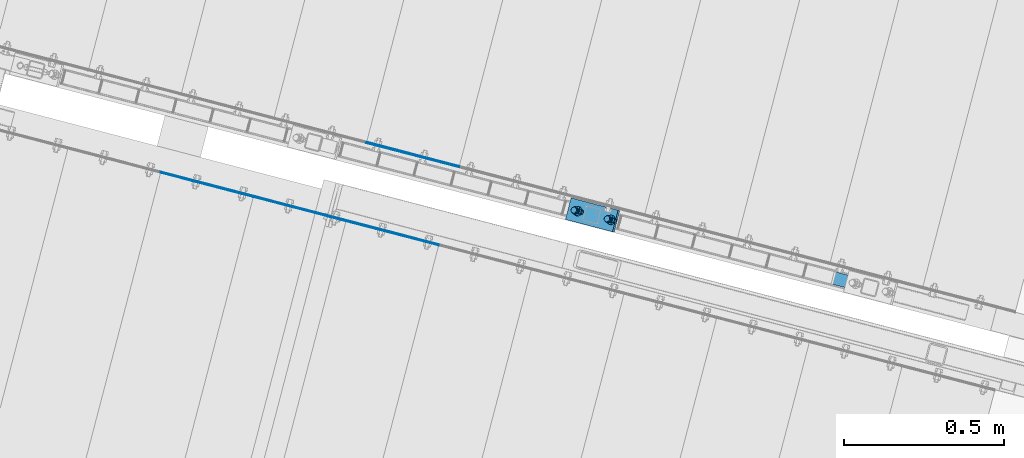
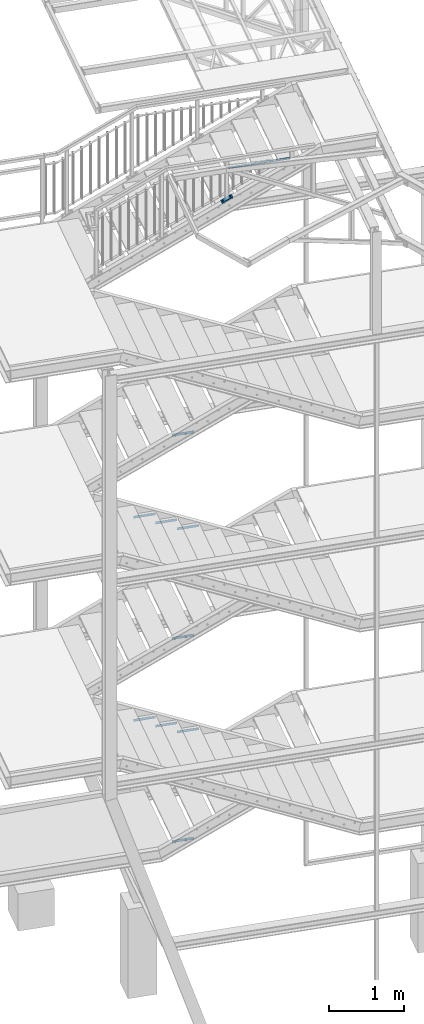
# One storey, part 66 of 169: 11 discrete accessories, 1 mechanical fastener, 10 elements without a shape of their own.
"""IFC2X3 building model written with IfcOpenShell, lengths in millimetres."""

from ifc_helpers import new_model, si_unit, frame, frame_2d, origin_with_axes, origin_2d_with_axis, place, context, subcontext, project, spatial, polyline, circle_curve, parameter, trimmed, segment, composite_curve, rectangle, circle, outline, extrude, clip, halfspace, source, transform, mapped, material, type_object, element, aggregate, save


model = new_model("IFC2X3")

# Units and contexts
model_context = context("Model", 3, precision=1e-05, world=origin_with_axes())
body_context = subcontext(model_context, "Body", "Model", "MODEL_VIEW")
ifc_project = project(units=[si_unit("LENGTHUNIT", "METRE", prefix="MILLI"), si_unit("AREAUNIT", "SQUARE_METRE"), si_unit("VOLUMEUNIT", "CUBIC_METRE"), si_unit("MASSUNIT", "GRAM", prefix="KILO"), si_unit("TIMEUNIT", "SECOND"), si_unit("PLANEANGLEUNIT", "RADIAN"), si_unit("SOLIDANGLEUNIT", "STERADIAN"), si_unit("THERMODYNAMICTEMPERATUREUNIT", "DEGREE_CELSIUS"), si_unit("LUMINOUSINTENSITYUNIT", "LUMEN")], contexts=[model_context])

# Site, building, storey
site_placement = place(None, origin_with_axes())
site = spatial("IfcSite", under=ifc_project, at=site_placement, Name="Undefined", CompositionType="ELEMENT")
building_placement = place(site_placement, origin_with_axes())
building = spatial("IfcBuilding", under=site, at=building_placement, Name="Undefined", CompositionType="ELEMENT")
storey_placement = place(building_placement, origin_with_axes())
storey = spatial("IfcBuildingStorey", under=building, at=storey_placement, Name="Undefined", CompositionType="ELEMENT", Elevation=0.0)

# Assembly, discrete accessories
assembly_1_placement = place(storey_placement, origin_with_axes())
assembly_1 = element("IfcElementAssembly", 1, at=assembly_1_placement, inside=storey, Name="Steel Assembly", AssemblyPlace="NOTDEFINED", PredefinedType="RIGID_FRAME")
ifc_material_1 = material(Name="STEEL/S235")
discrete_accessory_type_1 = type_object("IfcDiscreteAccessoryType", Name="BLACHA")
discrete_accessory_1_placement = place(assembly_1_placement, frame((-26058.7252326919, 6846.69603607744, 13359.2371418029), z_axis=(-0.432715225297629, 0.11294923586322, 0.894427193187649), x_axis=(0.252628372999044, 0.967563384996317, 3.42100000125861e-05)))
discrete_accessory_1 = element("IfcDiscreteAccessory", 2, at=discrete_accessory_1_placement, type_object=discrete_accessory_type_1, material=ifc_material_1, Name="BLACHA", ObjectType="BL12*170", context=body_context, shape_type="SweptSolid", body=[
    extrude(outline(polyline([(5.82076609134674e-11, 84.99999999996), (70.0000000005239, 84.9999999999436), (70.0000000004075, -84.9999999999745), (-5.82076609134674e-11, -84.99999999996), (5.82076609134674e-11, 84.99999999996)])), frame((-1.81898942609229e-12, -1.81898940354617e-12, -5.99999999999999), z_axis=(0.0, 0.0, 1.0), x_axis=(1.0, 0.0, 0.0)), (0.0, 0.0, 1.0), 12.0),
])
discrete_accessory_type_2 = type_object("IfcDiscreteAccessoryType", Name="PORĘCZ")
discrete_accessory_2_placement = place(assembly_1_placement, frame((-25206.811998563, 6660.50686749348, 13860.1970313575), z_axis=(3.4552000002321e-05, 0.000132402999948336, 0.999999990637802), x_axis=(-0.967563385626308, 0.252628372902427, -1.72000000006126e-07)))
discrete_accessory_2 = element("IfcDiscreteAccessory", 3, at=discrete_accessory_2_placement, type_object=discrete_accessory_type_2, material=ifc_material_1, Name="PORĘCZ", ObjectType="BL40*3", context=body_context, shape_type="Clipping", body=[
    clip(extrude(outline(polyline([(849.000001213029, 20.0000000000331), (849.000001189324, -19.9999999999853), (-3.27418092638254e-11, -20.0000000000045), (3.27418092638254e-11, 20.0000000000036), (849.000001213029, 20.0000000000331)])), frame((1.81898940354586e-12, -1.77635442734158e-15, -1.50000000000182), z_axis=(0.0, 0.0, 1.0), x_axis=(1.0, 0.0, 0.0)), (0.0, 0.0, 1.0), 3.0), halfspace(frame((849.000001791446, 1000.00000001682, -9.10404196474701e-09), z_axis=(-1.0, -3.46944695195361e-18, -1.38777878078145e-17), x_axis=(0.0, 0.0, 1.0)), True)),
])

# Assembly, discrete accessory
assembly_2_placement = place(storey_placement, origin_with_axes())
assembly_2 = element("IfcElementAssembly", 4, at=assembly_2_placement, inside=storey, Name="Steel Assembly", AssemblyPlace="NOTDEFINED", PredefinedType="RIGID_FRAME")
ifc_material_2 = material(Name="STEEL/S235JR")
discrete_accessory_type_3 = type_object("IfcDiscreteAccessoryType", Name="ANGLE")
discrete_accessory_3_placement = place(assembly_2_placement, frame((-26467.7992738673, 7032.06878251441, 9630.09581681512), z_axis=(0.252562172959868, 0.967580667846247, 0.0), x_axis=(-0.967580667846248, 0.252562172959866, 0.0)))
discrete_accessory_3 = element("IfcDiscreteAccessory", 5, at=discrete_accessory_3_placement, type_object=discrete_accessory_type_3, material=ifc_material_2, Name="ANGLE", ObjectType="3*40", context=body_context, shape_type="SweptSolid", body=[
    extrude(rectangle(XDim=40.0, YDim=3.0, at=origin_2d_with_axis()), frame((300.000000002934, 1.81898940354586e-12, -1.81898940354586e-12), z_axis=(-1.0, -3.46944695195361e-18, -1.38777878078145e-17), x_axis=(1.73472347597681e-18, -1.0, 0.0)), (0.0, 0.0, 1.0), 300.0),
])
aggregate(assembly_2, [discrete_accessory_3])

assembly_3_placement = place(storey_placement, origin_with_axes())
assembly_3 = element("IfcElementAssembly", 6, at=assembly_3_placement, inside=storey, Name="Steel Assembly", AssemblyPlace="NOTDEFINED", PredefinedType="RIGID_FRAME")
discrete_accessory_4_placement = place(assembly_3_placement, frame((-27402.5576247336, 7014.50178342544, 8580.32161330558), z_axis=(-0.252694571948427, -0.96754609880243, 0.0), x_axis=(0.96754609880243, -0.252694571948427, 0.0)))
discrete_accessory_4 = element("IfcDiscreteAccessory", 7, at=discrete_accessory_4_placement, type_object=discrete_accessory_type_3, material=ifc_material_2, Name="ANGLE", ObjectType="3*40", context=body_context, shape_type="SweptSolid", body=[
    extrude(rectangle(XDim=40.0, YDim=3.0, at=origin_2d_with_axis()), frame((300.000000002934, 1.81898940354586e-12, -1.81898940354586e-12), z_axis=(-1.0, -3.46944695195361e-18, -1.38777878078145e-17), x_axis=(1.73472347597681e-18, -1.0, 0.0)), (0.0, 0.0, 1.0), 300.0),
])
aggregate(assembly_3, [discrete_accessory_4])

assembly_4_placement = place(storey_placement, origin_with_axes())
assembly_4 = element("IfcElementAssembly", 8, at=assembly_4_placement, inside=storey, Name="Steel Assembly", AssemblyPlace="NOTDEFINED", PredefinedType="RIGID_FRAME")
discrete_accessory_5_placement = place(assembly_4_placement, frame((-27112.2937916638, 6938.69341107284, 8430.32161330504), z_axis=(-0.252694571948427, -0.96754609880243, 0.0), x_axis=(0.96754609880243, -0.252694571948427, 0.0)))
discrete_accessory_5 = element("IfcDiscreteAccessory", 9, at=discrete_accessory_5_placement, type_object=discrete_accessory_type_3, material=ifc_material_2, Name="ANGLE", ObjectType="3*40", context=body_context, shape_type="SweptSolid", body=[
    extrude(rectangle(XDim=40.0, YDim=3.0, at=origin_2d_with_axis()), frame((300.000000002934, 1.81898940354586e-12, -1.81898940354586e-12), z_axis=(-1.0, -3.46944695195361e-18, -1.38777878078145e-17), x_axis=(1.73472347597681e-18, -1.0, 0.0)), (0.0, 0.0, 1.0), 300.0),
])
aggregate(assembly_4, [discrete_accessory_5])

assembly_5_placement = place(storey_placement, origin_with_axes())
assembly_5 = element("IfcElementAssembly", 10, at=assembly_5_placement, inside=storey, Name="Steel Assembly", AssemblyPlace="NOTDEFINED", PredefinedType="RIGID_FRAME")
discrete_accessory_6_placement = place(assembly_5_placement, frame((-26822.029958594, 6862.88503872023, 8280.32161330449), z_axis=(-0.252694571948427, -0.96754609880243, 0.0), x_axis=(0.96754609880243, -0.252694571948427, 0.0)))
discrete_accessory_6 = element("IfcDiscreteAccessory", 11, at=discrete_accessory_6_placement, type_object=discrete_accessory_type_3, material=ifc_material_2, Name="ANGLE", ObjectType="3*40", context=body_context, shape_type="SweptSolid", body=[
    extrude(rectangle(XDim=40.0, YDim=3.0, at=origin_2d_with_axis()), frame((300.000000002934, 1.81898940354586e-12, -1.81898940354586e-12), z_axis=(-1.0, -3.46944695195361e-18, -1.38777878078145e-17), x_axis=(1.73472347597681e-18, -1.0, 0.0)), (0.0, 0.0, 1.0), 300.0),
])
aggregate(assembly_5, [discrete_accessory_6])

assembly_6_placement = place(storey_placement, origin_with_axes())
assembly_6 = element("IfcElementAssembly", 12, at=assembly_6_placement, inside=storey, Name="Steel Assembly", AssemblyPlace="NOTDEFINED", PredefinedType="RIGID_FRAME")
discrete_accessory_7_placement = place(assembly_6_placement, frame((-26467.9133513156, 7031.63186757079, 6330.09584768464), z_axis=(0.252562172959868, 0.967580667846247, 0.0), x_axis=(-0.967580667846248, 0.252562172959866, 0.0)))
discrete_accessory_7 = element("IfcDiscreteAccessory", 13, at=discrete_accessory_7_placement, type_object=discrete_accessory_type_3, material=ifc_material_2, Name="ANGLE", ObjectType="3*40", context=body_context, shape_type="SweptSolid", body=[
    extrude(rectangle(XDim=40.0, YDim=3.0, at=origin_2d_with_axis()), frame((300.000000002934, 1.81898940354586e-12, -1.81898940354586e-12), z_axis=(-1.0, -3.46944695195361e-18, -1.38777878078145e-17), x_axis=(1.73472347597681e-18, -1.0, 0.0)), (0.0, 0.0, 1.0), 300.0),
])
aggregate(assembly_6, [discrete_accessory_7])

assembly_7_placement = place(storey_placement, origin_with_axes())
assembly_7 = element("IfcElementAssembly", 14, at=assembly_7_placement, inside=storey, Name="Steel Assembly", AssemblyPlace="NOTDEFINED", PredefinedType="RIGID_FRAME")
discrete_accessory_8_placement = place(assembly_7_placement, frame((-27402.6717021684, 7014.06486848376, 5280.32164420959), z_axis=(-0.252694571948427, -0.96754609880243, 0.0), x_axis=(0.96754609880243, -0.252694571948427, 0.0)))
discrete_accessory_8 = element("IfcDiscreteAccessory", 15, at=discrete_accessory_8_placement, type_object=discrete_accessory_type_3, material=ifc_material_2, Name="ANGLE", ObjectType="3*40", context=body_context, shape_type="SweptSolid", body=[
    extrude(rectangle(XDim=40.0, YDim=3.0, at=origin_2d_with_axis()), frame((300.000000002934, 1.81898940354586e-12, -1.81898940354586e-12), z_axis=(-1.0, -3.46944695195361e-18, -1.38777878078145e-17), x_axis=(1.73472347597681e-18, -1.0, 0.0)), (0.0, 0.0, 1.0), 300.0),
])
aggregate(assembly_7, [discrete_accessory_8])

assembly_8_placement = place(storey_placement, origin_with_axes())
assembly_8 = element("IfcElementAssembly", 16, at=assembly_8_placement, inside=storey, Name="Steel Assembly", AssemblyPlace="NOTDEFINED", PredefinedType="RIGID_FRAME")
discrete_accessory_9_placement = place(assembly_8_placement, frame((-27112.4078690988, 6938.25649613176, 5130.32164420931), z_axis=(-0.252694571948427, -0.96754609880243, 0.0), x_axis=(0.96754609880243, -0.252694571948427, 0.0)))
discrete_accessory_9 = element("IfcDiscreteAccessory", 17, at=discrete_accessory_9_placement, type_object=discrete_accessory_type_3, material=ifc_material_2, Name="ANGLE", ObjectType="3*40", context=body_context, shape_type="SweptSolid", body=[
    extrude(rectangle(XDim=40.0, YDim=3.0, at=origin_2d_with_axis()), frame((300.000000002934, 1.81898940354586e-12, -1.81898940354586e-12), z_axis=(-1.0, -3.46944695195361e-18, -1.38777878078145e-17), x_axis=(1.73472347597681e-18, -1.0, 0.0)), (0.0, 0.0, 1.0), 300.0),
])
aggregate(assembly_8, [discrete_accessory_9])

assembly_9_placement = place(storey_placement, origin_with_axes())
assembly_9 = element("IfcElementAssembly", 18, at=assembly_9_placement, inside=storey, Name="Steel Assembly", AssemblyPlace="NOTDEFINED", PredefinedType="RIGID_FRAME")
discrete_accessory_10_placement = place(assembly_9_placement, frame((-26822.1440360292, 6862.44812377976, 4980.32164420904), z_axis=(-0.252694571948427, -0.96754609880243, 0.0), x_axis=(0.96754609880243, -0.252694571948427, 0.0)))
discrete_accessory_10 = element("IfcDiscreteAccessory", 19, at=discrete_accessory_10_placement, type_object=discrete_accessory_type_3, material=ifc_material_2, Name="ANGLE", ObjectType="3*40", context=body_context, shape_type="SweptSolid", body=[
    extrude(rectangle(XDim=40.0, YDim=3.0, at=origin_2d_with_axis()), frame((300.000000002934, 1.81898940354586e-12, -1.81898940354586e-12), z_axis=(-1.0, -3.46944695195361e-18, -1.38777878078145e-17), x_axis=(1.73472347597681e-18, -1.0, 0.0)), (0.0, 0.0, 1.0), 300.0),
])
aggregate(assembly_9, [discrete_accessory_10])

assembly_10_placement = place(storey_placement, origin_with_axes())
assembly_10 = element("IfcElementAssembly", 20, at=assembly_10_placement, inside=storey, Name="Steel Assembly", AssemblyPlace="NOTDEFINED", PredefinedType="RIGID_FRAME")
discrete_accessory_11_placement = place(assembly_10_placement, frame((-26468.0274368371, 7031.19495498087, 3030.09587438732), z_axis=(0.252562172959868, 0.967580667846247, 0.0), x_axis=(-0.967580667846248, 0.252562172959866, 0.0)))
discrete_accessory_11 = element("IfcDiscreteAccessory", 21, at=discrete_accessory_11_placement, type_object=discrete_accessory_type_3, material=ifc_material_2, Name="ANGLE", ObjectType="3*40", context=body_context, shape_type="SweptSolid", body=[
    extrude(rectangle(XDim=40.0, YDim=3.0, at=origin_2d_with_axis()), frame((300.000000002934, 1.81898940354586e-12, -1.81898940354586e-12), z_axis=(-1.0, -3.46944695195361e-18, -1.38777878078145e-17), x_axis=(1.73472347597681e-18, -1.0, 0.0)), (0.0, 0.0, 1.0), 300.0),
])
aggregate(assembly_10, [discrete_accessory_11])

# Mechanical fastener
ifc_material_3 = material(Name="Undefined")
discrete_accessory_type_4 = type_object("IfcDiscreteAccessoryType", Name="Bolt assembly")
shared_shape = source(origin_with_axes(), body_context, "Body", "SweptSolid", [
    extrude(outline(composite_curve([segment(polyline([(-7.5, 7.5), (7.5, 7.5)]), True, "CONTINUOUS"), segment(trimmed(circle_curve(frame_2d((7.5, 0.0), x_axis=(0.0, 1.0)), 7.5), [parameter(0.0)], [parameter(3.14159265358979)], False, "PARAMETER"), True, "CONTINUOUS"), segment(polyline([(7.5, -7.5), (-7.5, -7.5)]), True, "CONTINUOUS"), segment(trimmed(circle_curve(frame_2d((-7.5, 0.0), x_axis=(0.0, -1.0)), 7.5), [parameter(0.0)], [parameter(3.14159265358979)], False, "PARAMETER"), True, "DISCONTINUOUS")], self_intersect=False)), frame((0.0, 0.649999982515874, 0.0), z_axis=(0.0, 1.0, 0.0), x_axis=(1.0, 0.0, 0.0)), (0.0, 0.0, 1.0), 11.6),
    extrude(outline(composite_curve([segment(polyline([(7.5, 7.5), (7.5, -7.5)]), True, "CONTINUOUS"), segment(trimmed(circle_curve(frame_2d((0.0, -7.5), x_axis=(1.0, 0.0)), 7.5), [parameter(0.0)], [parameter(3.14159265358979)], False, "PARAMETER"), True, "CONTINUOUS"), segment(polyline([(-7.5, -7.5), (-7.5, 7.5)]), True, "CONTINUOUS"), segment(trimmed(circle_curve(frame_2d((0.0, 7.5), x_axis=(-1.0, 0.0)), 7.5), [parameter(0.0)], [parameter(3.14159265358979)], False, "PARAMETER"), True, "DISCONTINUOUS")], self_intersect=False)), frame((0.0, -12.1500000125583, 0.0), z_axis=(0.0, 1.0, 0.0), x_axis=(1.0, 0.0, 0.0)), (0.0, 0.0, 1.0), 12.0),
    extrude(outline(polyline([(10.39230484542, 0.0), (5.19615242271, 9.00000000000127), (-5.19615242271, 9.00000000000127), (-10.39230484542, 0.0), (-5.19615242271, -9.00000000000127), (5.19615242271, -9.00000000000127), (10.39230484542, 0.0)])), frame((0.0, -22.7500000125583, 0.0), z_axis=(0.0, 1.0, 0.0), x_axis=(1.0, 0.0, 0.0)), (0.0, 0.0, 1.0), 7.5),
    extrude(circle(Radius=6.0, at=origin_2d_with_axis()), frame((0.0, -15.2500000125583, 0.0), z_axis=(0.0, 1.0, 0.0), x_axis=(1.0, 0.0, 0.0)), (0.0, 0.0, 1.0), 50.0),
    extrude(circle(Radius=12.0, at=origin_2d_with_axis()), frame((0.0, -15.2500000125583, 0.0), z_axis=(0.0, 1.0, 0.0), x_axis=(1.0, 0.0, 0.0)), (0.0, 0.0, 1.0), 3.0),
    extrude(circle(Radius=12.0, at=origin_2d_with_axis()), frame((0.0, 12.2499999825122, 0.0), z_axis=(0.0, 1.0, 0.0), x_axis=(1.0, 0.0, 0.0)), (0.0, 0.0, 1.0), 3.0),
    extrude(outline(polyline([(10.96965511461, 0.0), (5.484827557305, 9.50000000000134), (-5.484827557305, 9.50000000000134), (-10.96965511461, 0.0), (-5.484827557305, -9.50000000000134), (5.484827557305, -9.50000000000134), (10.96965511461, 0.0)])), frame((0.0, 15.2499999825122, 0.0), z_axis=(0.0, 1.0, 0.0), x_axis=(1.0, 0.0, 0.0)), (0.0, 0.0, 1.0), 10.0),
])
mechanical_fastener_placement = place(assembly_1_placement, frame((-26040.8630600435, 6904.04390680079, 13353.6490244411), z_axis=(0.86541113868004, -0.22597248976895, 0.447213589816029), x_axis=(-0.252628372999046, -0.967563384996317, -3.42099999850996e-05)))
mechanical_fastener = element("IfcMechanicalFastener", 22, at=mechanical_fastener_placement, type_object=discrete_accessory_type_4, material=ifc_material_3, Name="Bolt assembly", NominalDiameter=12.0, NominalLength=50.0, context=body_context, shape_type="MappedRepresentation", body=[
    mapped(shared_shape, transform((24.9999999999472, 0.0, -60.0000000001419))),
    mapped(shared_shape, transform((24.9999999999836, -3.54702933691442e-11, 60.0000000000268))),
])

aggregate(assembly_1, [mechanical_fastener, discrete_accessory_1, discrete_accessory_2])

save(model, "model.ifc")
